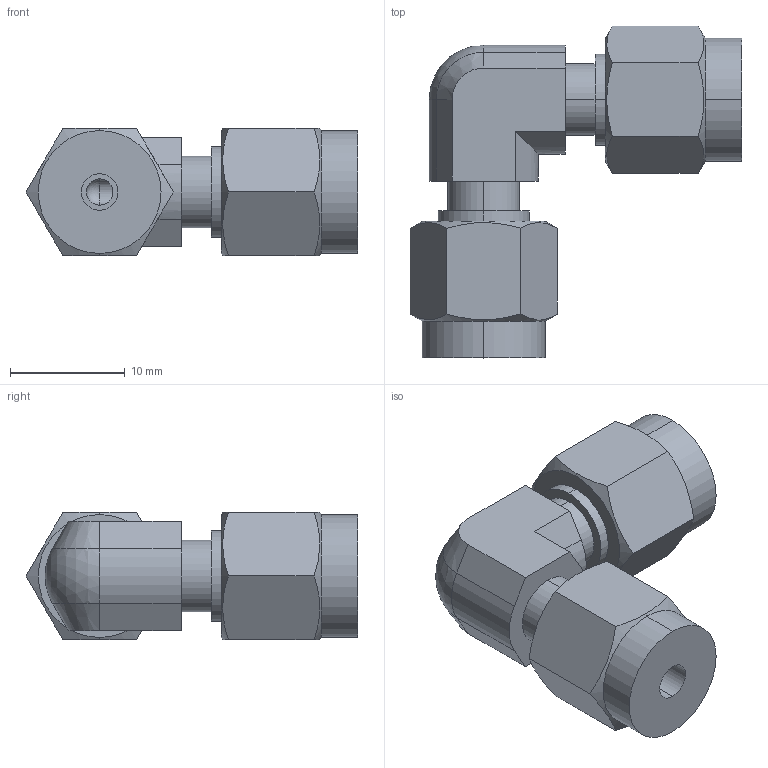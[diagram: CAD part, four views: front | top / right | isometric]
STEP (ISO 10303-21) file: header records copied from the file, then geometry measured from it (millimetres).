
FILE_DESCRIPTION (( 'STEP AP203' ), '1' );
FILE_NAME ('DLA02 SS.STEP', '2009-10-26T06:02:17', ( ' ' ), ( '' ), 'SwSTEP 2.0', 'SolidWorks 2008', '' );
FILE_SCHEMA (( 'CONFIG_CONTROL_DESIGN' ));
Length unit declared in the file: millimetre
Products named in the file (1): DLA02 SS
Bounding box: 28.91 x 28.91 x 11.11 mm (x, y, z)
Volume: 3427 mm3; surface area: 2274.6 mm2
Topology: 1 solids, 1 shells, 68 faces, 164 edges, 104 vertices
Faces by surface type: plane 32, cylinder 24, cone 10, sphere 2
Entity records: 2185 total; most frequent: CARTESIAN_POINT 561, ORIENTED_EDGE 320, DIRECTION 316, EDGE_CURVE 160, AXIS2_PLACEMENT_3D 121, VERTEX_POINT 102, EDGE_LOOP 78, VECTOR 74
